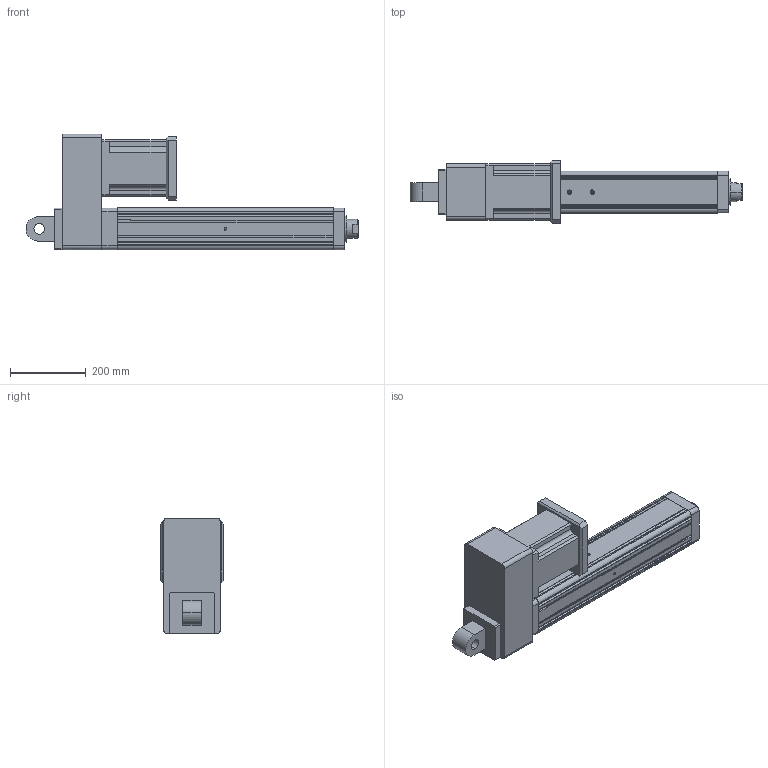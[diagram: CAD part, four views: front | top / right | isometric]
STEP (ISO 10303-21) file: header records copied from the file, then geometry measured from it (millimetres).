
FILE_DESCRIPTION (( 'STEP AP203' ), '1' );
FILE_NAME ('YRJ110-L400-H6K2.STEP', '2020-01-04T07:05:00', ( 'User' ), ( 'China' ), 'SwSTEP 2.0', 'SolidWorks 2016', '' );
FILE_SCHEMA (( 'CONFIG_CONTROL_DESIGN' ));
Length unit declared in the file: millimetre
Products named in the file (8): YRJ110-L400-H6K2; 095-100俴最倰第; 萇儂碟-110; 142熬厒儂; H5-110-1; H6-110; H3-110-2; K2-110
Assembly tree (7 placements, depth 2):
  YRJ110-L400-H6K2
    095-100俴最倰第
    萇儂碟-110
    142熬厒儂
    H5-110-1
    H6-110
    H3-110-2
    K2-110
Bounding box: 876 x 168 x 305.5 mm (x, y, z)
Volume: 12554959.5 mm3; surface area: 1030835 mm2
Topology: 7 solids, 7 shells, 316 faces, 865 edges, 559 vertices
Faces by surface type: plane 177, cylinder 112, cone 27
Entity records: 11082 total; most frequent: CARTESIAN_POINT 2074, DIRECTION 1718, ORIENTED_EDGE 1698, EDGE_CURVE 849, LINE 588, VECTOR 588, AXIS2_PLACEMENT_3D 565, VERTEX_POINT 559
